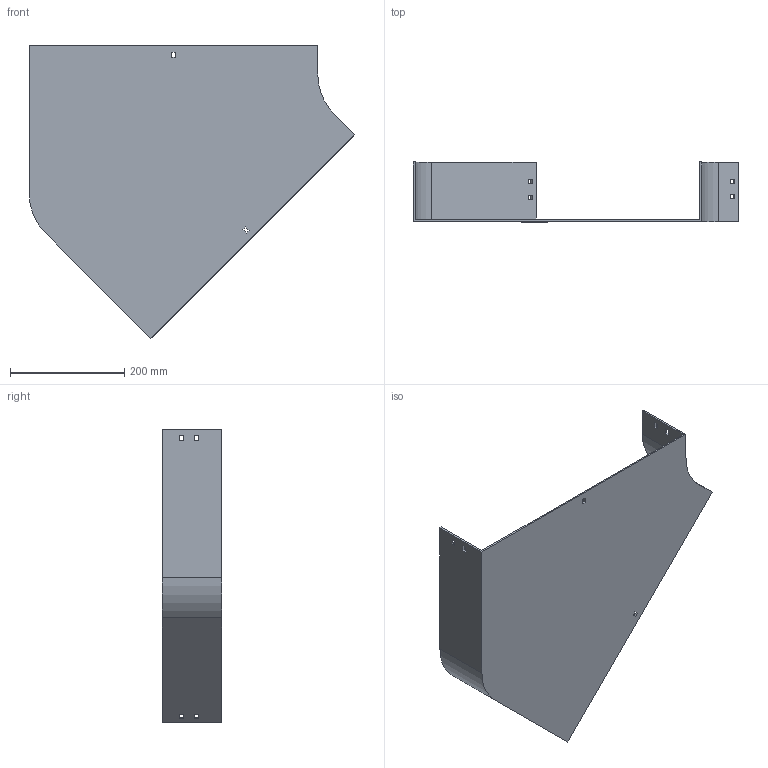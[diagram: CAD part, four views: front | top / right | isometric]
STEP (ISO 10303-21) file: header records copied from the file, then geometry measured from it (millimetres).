
FILE_DESCRIPTION (( 'STEP AP214' ), '1' );
FILE_NAME ('11B1D500.step', '2025-02-21T09:36:50', ( '' ), ( '' ), 'SwSTEP 2.0', 'SolidWorks 2023', '' );
FILE_SCHEMA (( 'AUTOMOTIVE_DESIGN' ));
Length unit declared in the file: millimetre
Products named in the file (1): 11B1D500
Bounding box: 568.64 x 104 x 512.45 mm (x, y, z)
Volume: 960892.1 mm3; surface area: 557896.3 mm2
Topology: 1 solids, 1 shells, 58 faces, 168 edges, 112 vertices
Faces by surface type: plane 54, cylinder 4
Entity records: 1943 total; most frequent: CARTESIAN_POINT 339, ORIENTED_EDGE 336, DIRECTION 294, EDGE_CURVE 168, VECTOR 160, LINE 160, VERTEX_POINT 112, EDGE_LOOP 78
